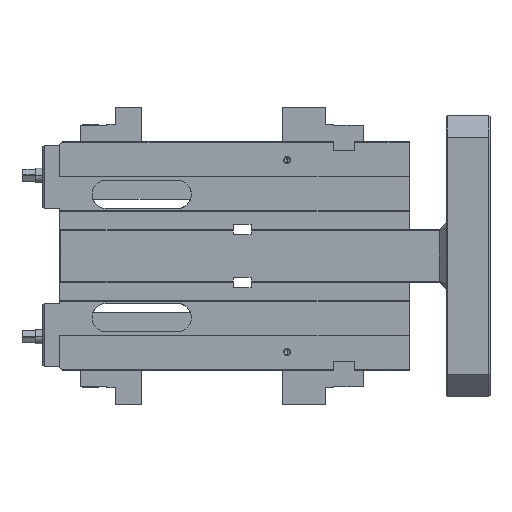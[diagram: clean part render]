
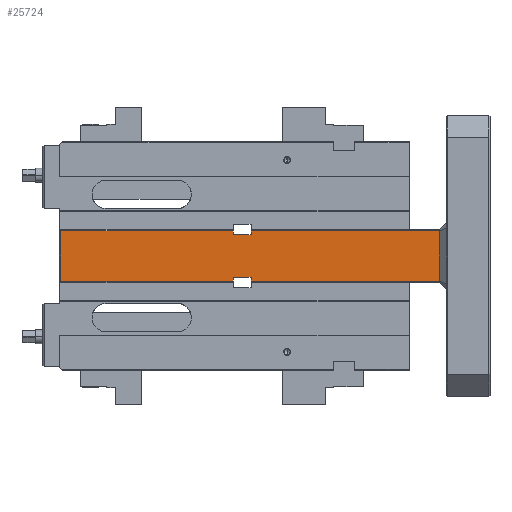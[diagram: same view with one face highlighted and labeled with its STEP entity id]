
A CAD part, left-side view. The second image highlights one B-rep face of the part: STEP entity #25724.
In plain terms, the highlighted planar face has unit normal (-1, 0, 0).
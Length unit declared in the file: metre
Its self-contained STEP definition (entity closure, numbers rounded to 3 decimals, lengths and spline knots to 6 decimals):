
#4410=DIRECTION('',(0.,0.,-1.));
#4411=VECTOR('',#4410,0.0045);
#4412=CARTESIAN_POINT('',(0.085,0.292,-0.1215));
#4413=LINE('',#4412,#4411);
#4442=DIRECTION('',(0.,0.,1.));
#4443=VECTOR('',#4442,0.0045);
#4444=CARTESIAN_POINT('',(0.085,0.272,-0.126));
#4445=LINE('',#4444,#4443);
#4458=DIRECTION('',(0.,-1.,0.));
#4459=VECTOR('',#4458,0.214);
#4460=CARTESIAN_POINT('',(0.085,0.272,-0.1215));
#4461=LINE('',#4460,#4459);
#8964=DIRECTION('',(0.,0.,-1.));
#8965=VECTOR('',#8964,0.0045);
#8966=CARTESIAN_POINT('',(0.085,0.292,-0.174));
#8967=LINE('',#8966,#8965);
#9008=DIRECTION('',(0.,0.,1.));
#9009=VECTOR('',#9008,0.0045);
#9010=CARTESIAN_POINT('',(0.085,0.272,-0.1785));
#9011=LINE('',#9010,#9009);
#9352=DIRECTION('',(0.,-1.,0.));
#9353=VECTOR('',#9352,0.02);
#9354=CARTESIAN_POINT('',(0.085,0.292,-0.126));
#9355=LINE('',#9354,#9353);
#9386=DIRECTION('',(0.,0.,1.));
#9387=VECTOR('',#9386,0.057);
#9388=CARTESIAN_POINT('',(0.085,0.058,-0.1785));
#9389=LINE('',#9388,#9387);
#9390=DIRECTION('',(0.,1.,0.));
#9391=VECTOR('',#9390,0.214);
#9392=CARTESIAN_POINT('',(0.085,0.058,-0.1785));
#9393=LINE('',#9392,#9391);
#9408=DIRECTION('',(0.,1.,0.));
#9409=VECTOR('',#9408,0.02);
#9410=CARTESIAN_POINT('',(0.085,0.272,-0.174));
#9411=LINE('',#9410,#9409);
#9442=DIRECTION('',(0.,1.,0.));
#9443=VECTOR('',#9442,0.1965);
#9444=CARTESIAN_POINT('',(0.085,0.292,-0.1785));
#9445=LINE('',#9444,#9443);
#9458=DIRECTION('',(0.,0.,1.));
#9459=VECTOR('',#9458,0.057);
#9460=CARTESIAN_POINT('',(0.085,0.4885,-0.1785));
#9461=LINE('',#9460,#9459);
#9466=DIRECTION('',(0.,-1.,0.));
#9467=VECTOR('',#9466,0.1965);
#9468=CARTESIAN_POINT('',(0.085,0.4885,-0.1215));
#9469=LINE('',#9468,#9467);
#12239=CARTESIAN_POINT('',(0.085,0.058,-0.1785));
#12240=CARTESIAN_POINT('',(0.085,0.058,-0.1215));
#12241=VERTEX_POINT('',#12239);
#12242=VERTEX_POINT('',#12240);
#12243=CARTESIAN_POINT('',(0.085,0.272,-0.1785));
#12244=VERTEX_POINT('',#12243);
#12245=CARTESIAN_POINT('',(0.085,0.272,-0.174));
#12246=VERTEX_POINT('',#12245);
#12247=CARTESIAN_POINT('',(0.085,0.292,-0.174));
#12248=VERTEX_POINT('',#12247);
#12249=CARTESIAN_POINT('',(0.085,0.292,-0.1785));
#12250=VERTEX_POINT('',#12249);
#12251=CARTESIAN_POINT('',(0.085,0.4885,-0.1785));
#12252=VERTEX_POINT('',#12251);
#12253=CARTESIAN_POINT('',(0.085,0.4885,-0.1215));
#12254=VERTEX_POINT('',#12253);
#12255=CARTESIAN_POINT('',(0.085,0.292,-0.1215));
#12256=VERTEX_POINT('',#12255);
#12257=CARTESIAN_POINT('',(0.085,0.292,-0.126));
#12258=VERTEX_POINT('',#12257);
#12259=CARTESIAN_POINT('',(0.085,0.272,-0.126));
#12260=VERTEX_POINT('',#12259);
#12261=CARTESIAN_POINT('',(0.085,0.272,-0.1215));
#12262=VERTEX_POINT('',#12261);
#25700=CARTESIAN_POINT('',(0.085,0.05,-0.12));
#25701=DIRECTION('',(1.,0.,0.));
#25702=DIRECTION('',(0.,1.,0.));
#25703=AXIS2_PLACEMENT_3D('',#25700,#25701,#25702);
#25704=PLANE('',#25703);
#25705=ORIENTED_EDGE('',*,*,#19991,.T.);
#25706=ORIENTED_EDGE('',*,*,#20019,.F.);
#25708=ORIENTED_EDGE('',*,*,#25707,.T.);
#25709=ORIENTED_EDGE('',*,*,#25211,.T.);
#25711=ORIENTED_EDGE('',*,*,#25710,.T.);
#25712=ORIENTED_EDGE('',*,*,#25170,.T.);
#25714=ORIENTED_EDGE('',*,*,#25713,.T.);
#25716=ORIENTED_EDGE('',*,*,#25715,.T.);
#25718=ORIENTED_EDGE('',*,*,#25717,.T.);
#25719=ORIENTED_EDGE('',*,*,#19940,.T.);
#25720=ORIENTED_EDGE('',*,*,#25635,.T.);
#25721=ORIENTED_EDGE('',*,*,#19972,.T.);
#25722=EDGE_LOOP('',(#25705,#25706,#25708,#25709,#25711,#25712,#25714,#25716,
#25718,#25719,#25720,#25721));
#25723=FACE_OUTER_BOUND('',#25722,.F.);
#25724=ADVANCED_FACE('',(#25723),#25704,.F.);
#19940=EDGE_CURVE('',#12256,#12258,#4413,.T.);
#19972=EDGE_CURVE('',#12260,#12262,#4445,.T.);
#19991=EDGE_CURVE('',#12262,#12242,#4461,.T.);
#20019=EDGE_CURVE('',#12241,#12242,#9389,.T.);
#25170=EDGE_CURVE('',#12248,#12250,#8967,.T.);
#25211=EDGE_CURVE('',#12244,#12246,#9011,.T.);
#25635=EDGE_CURVE('',#12258,#12260,#9355,.T.);
#25707=EDGE_CURVE('',#12241,#12244,#9393,.T.);
#25710=EDGE_CURVE('',#12246,#12248,#9411,.T.);
#25713=EDGE_CURVE('',#12250,#12252,#9445,.T.);
#25715=EDGE_CURVE('',#12252,#12254,#9461,.T.);
#25717=EDGE_CURVE('',#12254,#12256,#9469,.T.);
